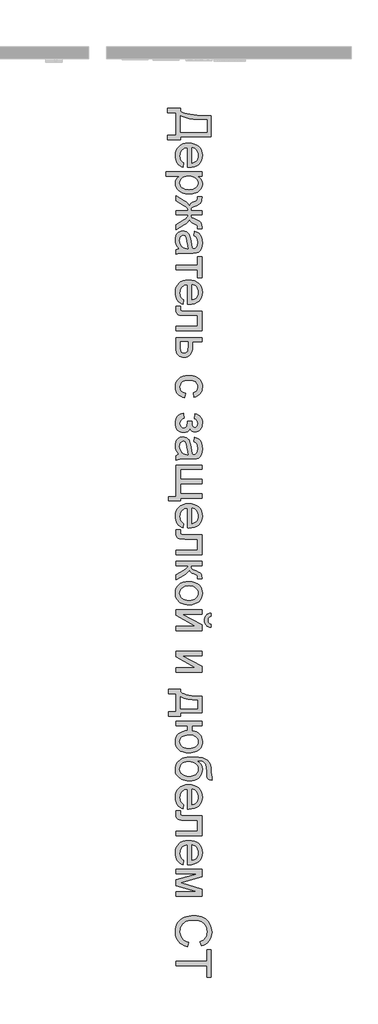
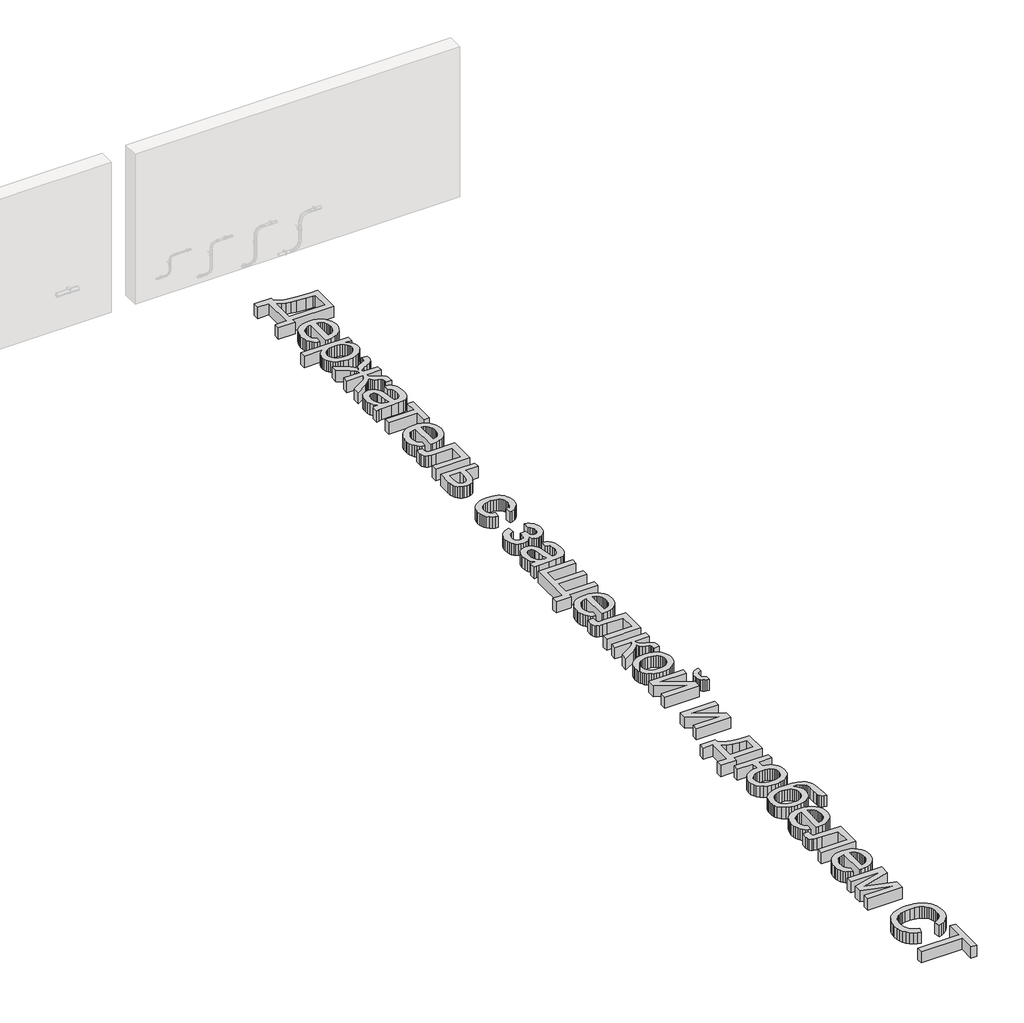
# One storey, part 23 of 33: 1 proxy.
"""IFC4 building model written with IfcOpenShell, lengths in millimetres."""

from ifc_helpers import new_model, si_unit, origin, origin_with_axes, place, context, project, spatial, polyline, outline, extrude, element, save

model = new_model("IFC4")

# Units and contexts
model_context = context("Model", 3, world=origin())
ifc_project = project(units=[si_unit("LENGTHUNIT", "METRE", prefix="MILLI")], contexts=[model_context])

# Site, building, storey
site = spatial("IfcSite", under=ifc_project)
building = spatial("IfcBuilding", under=site)
storey = spatial("IfcBuildingStorey", under=building, Name="Уровень 1", Elevation=0.0)

# Proxy
placement = place(None, origin())
element("IfcBuildingElementProxy", 1, Name="Надпись на модели 1", ObjectType="Надпись на модели 1", at=placement, inside=storey, context=model_context, shape_type="SweptSolid", body=[
    extrude(outline(polyline([(55582.7836806, 3450.1864808), (55582.7836806, 3099.4172501), (55065.8606037, 3099.4172501), (55065.8606037, 3044.0326347), (54853.5529114, 3044.0326347), (54853.5529114, 3117.8787885), (54992.0144499, 3117.8787885), (54992.0144499, 3496.340327), (54853.5529114, 3496.340327), (54853.5529114, 3570.1864808), (55065.8606037, 3570.1864808), (55065.8606037, 3524.0326347), (55095.9484943, 3506.7249424), (55132.8467816, 3491.7249424), (55176.5554655, 3479.0326347), (55227.074546, 3468.6480193), (55348.543897, 3454.8018655), (55497.2548345, 3450.1864808), (55582.7836806, 3450.1864808)]), holes=[polyline([(55508.9375268, 3173.2634039), (55508.9375268, 3376.340327), (55479.2259883, 3376.340327), (55391.6418537, 3380.090327), (55276.8702191, 3391.340327), (55215.5450989, 3400.6432116), (55159.9351229, 3413.5518655), (55110.0402912, 3430.0662885), (55065.8606037, 3450.1864808), (55065.8606037, 3173.2634039), (55508.9375268, 3173.2634039)])]), origin_with_axes(), (0.0, 0.0, 1.0), 150.0),
    extrude(outline(polyline([(55121.2452191, 2657.2057116), (55112.0144499, 2584.8018655), (55083.0150508, 2595.9031275), (55057.4591614, 2610.8896058), (55035.3467816, 2629.7613005), (55016.6779114, 2652.5182116), (55001.8491854, 2678.925964), (54991.2572383, 2708.7501828), (54984.9020701, 2741.9908679), (54982.7836806, 2778.6480193), (54986.4390292, 2824.4683318), (54997.4050749, 2865.2946539), (55015.6818176, 2901.1269856), (55041.2692576, 2931.965327), (55073.4552551, 2956.7640049), (55111.527671, 2974.4773462), (55155.4865051, 2985.105351), (55205.3317576, 2988.6480193), (55256.8672143, 2985.0692933), (55302.2908922, 2974.3331155), (55341.6027912, 2956.4394856), (55374.8029114, 2931.3884039), (55401.1791133, 2900.6311924), (55420.0192576, 2865.6191731), (55431.3233441, 2826.3523462), (55435.0913729, 2782.8307116), (55431.3323585, 2740.7108198), (55420.0553152, 2702.6203751), (55401.2602431, 2668.5593775), (55374.9471422, 2638.527827), (55341.8191374, 2614.0131034), (55302.5793537, 2596.5025866), (55257.2277912, 2585.9962765), (55205.7644499, 2582.4941731), (55185.8606037, 2582.9268655), (55185.8606037, 2914.8018655), (55156.3924547, 2910.5245217), (55130.5841614, 2902.0194135), (55108.4357239, 2889.2865409), (55089.9471422, 2872.3259039), (55075.3708201, 2852.0750025), (55064.9591614, 2829.4713366), (55058.7121662, 2804.5149063), (55056.6298345, 2777.2057116), (55060.4880076, 2737.902827), (55072.0625268, 2704.8018655), (55092.074546, 2677.902827), (55121.2452191, 2657.2057116)]), holes=[polyline([(55259.7067576, 2914.8018655), (55259.7067576, 2656.340327), (55298.7211806, 2666.3283078), (55314.0637287, 2674.919053), (55326.6298345, 2685.9076347), (55341.7740652, 2706.0458558), (55352.5913729, 2728.9605193), (55359.0817576, 2754.6516251), (55361.2452191, 2783.1191731), (55359.5189571, 2809.0852188), (55354.340171, 2832.8968174), (55345.7088609, 2854.5539688), (55333.6250268, 2874.0566731), (55318.6475628, 2890.4223582), (55301.3353633, 2902.668452), (55281.6884282, 2910.7949544), (55259.7067576, 2914.8018655)])]), origin_with_axes(), (0.0, 0.0, 1.0), 150.0),
    extrude(outline(polyline([(54825.8606037, 2508.6480193), (55425.8606037, 2508.6480193), (55425.8606037, 2434.8018655), (55353.4567576, 2434.8018655), (55389.1719018, 2410.715327), (55414.6827191, 2383.7441731), (55429.9892095, 2352.3018655), (55435.0913729, 2314.8018655), (55433.3065172, 2289.0476587), (55427.9519499, 2264.8619616), (55419.027671, 2242.2447741), (55406.5336806, 2221.1960962), (55390.7944979, 2202.1756635), (55372.1346422, 2185.6432116), (55350.5541133, 2171.5987405), (55326.0529114, 2160.0422501), (55271.6418537, 2144.5735001), (55212.2548345, 2139.4172501), (55149.0997864, 2145.2405674), (55120.0237648, 2152.519714), (55092.6154114, 2162.7105193), (55067.5913729, 2175.6732597), (55045.668296, 2191.2682116), (55026.8461806, 2209.4953751), (55011.1250268, 2230.3547501), (54998.7256878, 2252.8231996), (54989.8690172, 2275.8775866), (54984.5550148, 2299.5179111), (54982.7836806, 2323.7441731), (54987.5252672, 2357.6924905), (55001.7500268, 2387.9989808), (55023.2223826, 2413.9424905), (55049.7067576, 2434.8018655), (54825.8606037, 2434.8018655), (54825.8606037, 2508.6480193)]), holes=[polyline([(55205.4759883, 2434.8018655), (55169.887046, 2432.8051707), (55139.2740652, 2426.8150866), (55113.637046, 2416.831613), (55092.9759883, 2402.8547501), (55077.074546, 2386.0293294), (55065.7163729, 2367.5001828), (55058.9014691, 2347.2673102), (55056.6298345, 2325.3307116), (55058.9825989, 2303.0786082), (55066.0408922, 2282.4761443), (55077.8047143, 2263.5233198), (55094.2740652, 2246.2201347), (55115.6833201, 2231.801565), (55142.2668537, 2221.5025866), (55174.0246662, 2215.3231996), (55210.9567576, 2213.2634039), (55246.2392095, 2215.2736203), (55276.7981037, 2221.3042693), (55302.6334402, 2231.355351), (55323.7452191, 2245.4268655), (55340.1514691, 2262.292851), (55351.8702191, 2280.7273462), (55358.9014691, 2300.730351), (55361.2452191, 2322.3018655), (55358.7527311, 2343.8057717), (55351.2752672, 2364.0386443), (55338.8128273, 2383.0004832), (55321.3654114, 2400.6912885), (55299.1673946, 2415.6146659), (55272.4531518, 2426.2742212), (55241.222683, 2432.6699544), (55205.4759883, 2434.8018655)])]), origin_with_axes(), (0.0, 0.0, 1.0), 150.0),
    extrude(outline(polyline([(55425.8606037, 1788.6480193), (55241.2452191, 1788.6480193), (55245.0493056, 1762.5963366), (55256.4615652, 1745.5951347), (55283.8113249, 1729.1708558), (55335.4279114, 1704.8499424), (55384.6466614, 1679.4292693), (55400.7374066, 1667.5572741), (55411.1490652, 1656.2441731), (55422.1827191, 1628.0831155), (55425.8606037, 1587.1576347), (55425.8606037, 1557.8787885), (55351.5817576, 1557.8787885), (55352.0144499, 1578.215327), (55350.1033922, 1602.590327), (55344.3702191, 1616.2922501), (55328.3606037, 1627.2177308), (55296.4856037, 1642.6864808), (55264.3942576, 1658.6420097), (55243.9856037, 1673.3355193), (55230.0312768, 1691.3102789), (55217.3029114, 1717.1095578), (55206.9092816, 1692.8156876), (55188.5649306, 1668.8283078), (55162.2698585, 1645.1474183), (55128.0240652, 1621.7730193), (54992.0144499, 1539.4172501), (54992.0144499, 1624.0807116), (55126.1490652, 1705.1384039), (55161.3594018, 1727.2958558), (55181.8942576, 1746.4605193), (55191.7920941, 1765.8415289), (55195.0913729, 1788.6480193), (54992.0144499, 1788.6480193), (54992.0144499, 1862.4941731), (55195.0913729, 1862.4941731), (55191.8642095, 1885.1203751), (55182.1827191, 1904.5374424), (55161.7920941, 1923.8463366), (55126.4375268, 1946.1480193), (54992.0144499, 2027.2057116), (54992.0144499, 2111.7249424), (55128.0240652, 2029.6576347), (55162.2698585, 2006.0849183), (55188.5649306, 1982.2417693), (55206.9092816, 1958.1281876), (55217.3029114, 1933.7441731), (55231.4375268, 1961.9412885), (55246.7259883, 1980.1864808), (55273.5889691, 1996.7730193), (55322.4471422, 2019.9941731), (55338.7091614, 2029.4052308), (55347.3990652, 2039.465327), (55351.1851229, 2052.7706155), (55352.4471422, 2071.340327), (55352.0144499, 2093.2634039), (55425.8606037, 2093.2634039), (55425.8606037, 2082.1576347), (55424.7067576, 2042.9629231), (55421.2452191, 2017.3980193), (55414.0336806, 1999.621577), (55401.6298345, 1983.7922501), (55377.5793537, 1966.9533078), (55335.4279114, 1946.1480193), (55284.4423345, 1922.0795097), (55256.9663729, 1905.8355193), (55245.1755076, 1888.8343174), (55241.2452191, 1862.4941731), (55425.8606037, 1862.4941731), (55425.8606037, 1788.6480193)])), origin_with_axes(), (0.0, 0.0, 1.0), 150.0),
    extrude(outline(polyline([(55047.3990652, 1225.5710962), (55017.1466614, 1260.8535481), (54997.3509883, 1297.1816731), (54986.4255076, 1335.3847981), (54982.7836806, 1376.2922501), (54984.9741854, 1409.1723582), (54991.5456999, 1438.0049905), (55002.4982239, 1462.7901467), (55017.8317576, 1483.527827), (55036.5727431, 1499.9025265), (55057.7476229, 1511.5987405), (55081.356397, 1518.6164688), (55107.3990652, 1520.9557116), (55138.012046, 1517.4220578), (55165.8125268, 1506.8210962), (55189.6106037, 1490.4689328), (55208.2163729, 1469.6816731), (55222.2788729, 1445.2525866), (55232.4471422, 1417.9749424), (55243.5529114, 1354.0807116), (55255.2356037, 1278.5759039), (55268.9375268, 1226.0037885), (55285.3798345, 1225.5710962), (55318.3365652, 1230.6552308), (55330.5420941, 1237.0103991), (55339.8990652, 1245.9076347), (55349.2380076, 1261.2862405), (55355.9086806, 1280.0182116), (55361.2452191, 1327.5422501), (55357.6935364, 1371.5326347), (55347.0384883, 1402.2537885), (55327.3329595, 1423.2033078), (55296.6298345, 1437.8787885), (55305.8606037, 1511.7249424), (55346.2452191, 1498.9064328), (55377.9759883, 1479.777827), (55402.2428152, 1452.5542693), (55420.2356037, 1415.4509039), (55431.3774306, 1370.0722981), (55435.0913729, 1318.0230193), (55431.8101229, 1268.1011443), (55421.9663729, 1228.527827), (55407.1646902, 1198.6900866), (55389.0096422, 1177.9749424), (55366.5637287, 1164.2369616), (55338.8894499, 1155.3307116), (55274.2740652, 1151.7249424), (55182.3990652, 1151.7249424), (55054.105796, 1147.9749424), (55022.3930556, 1142.4220578), (54992.0144499, 1133.2634039), (54992.0144499, 1207.1095578), (55017.6875268, 1218.9364808), (55047.3990652, 1225.5710962)]), holes=[polyline([(55195.0913729, 1225.5710962), (55182.7956999, 1275.1864808), (55172.4471422, 1344.7057116), (55160.4759883, 1408.2393655), (55152.2908922, 1424.7718174), (55141.0048345, 1437.0134039), (55127.4831999, 1444.5855193), (55112.5913729, 1447.1095578), (55090.6322383, 1441.6107597), (55072.6394499, 1425.1143655), (55060.6322383, 1397.980952), (55056.6298345, 1360.5710962), (55061.0469018, 1320.9076347), (55074.2981037, 1285.8595578), (55093.8233441, 1257.4460962), (55117.0625268, 1237.6864808), (55141.0048345, 1228.9244616), (55174.1779114, 1226.0037885), (55195.0913729, 1225.5710962)])]), origin_with_axes(), (0.0, 0.0, 1.0), 150.0),
    extrude(outline(polyline([(55425.8606037, 1087.1095578), (55425.8606037, 736.340327), (55352.0144499, 736.340327), (55352.0144499, 874.8018655), (54992.0144499, 874.8018655), (54992.0144499, 948.6480193), (55352.0144499, 948.6480193), (55352.0144499, 1087.1095578), (55425.8606037, 1087.1095578)])), origin_with_axes(), (0.0, 0.0, 1.0), 150.0),
    extrude(outline(polyline([(55121.2452191, 367.9749424), (55112.0144499, 295.5710962), (55083.0150508, 306.6723582), (55057.4591614, 321.6588366), (55035.3467816, 340.5305313), (55016.6779114, 363.2874424), (55001.8491854, 389.6951948), (54991.2572383, 419.5194135), (54984.9020701, 452.7600986), (54982.7836806, 489.4172501), (54986.4390292, 535.2375626), (54997.4050749, 576.0638847), (55015.6818176, 611.8962164), (55041.2692576, 642.7345578), (55073.4552551, 667.5332356), (55111.527671, 685.246577), (55155.4865051, 695.8745818), (55205.3317576, 699.4172501), (55256.8672143, 695.8385241), (55302.2908922, 685.1023462), (55341.6027912, 667.2087164), (55374.8029114, 642.1576347), (55401.1791133, 611.4004231), (55420.0192576, 576.3884039), (55431.3233441, 537.121577), (55435.0913729, 493.5999424), (55431.3323585, 451.4800505), (55420.0553152, 413.3896058), (55401.2602431, 379.3286082), (55374.9471422, 349.2970578), (55341.8191374, 324.7823342), (55302.5793537, 307.2718174), (55257.2277912, 296.7655073), (55205.7644499, 293.2634039), (55185.8606037, 293.6960962), (55185.8606037, 625.5710962), (55156.3924547, 621.2937525), (55130.5841614, 612.7886443), (55108.4357239, 600.0557717), (55089.9471422, 583.0951347), (55075.3708201, 562.8442332), (55064.9591614, 540.2405674), (55058.7121662, 515.2841371), (55056.6298345, 487.9749424), (55060.4880076, 448.6720578), (55072.0625268, 415.5710962), (55092.074546, 388.6720578), (55121.2452191, 367.9749424)]), holes=[polyline([(55259.7067576, 625.5710962), (55259.7067576, 367.1095578), (55298.7211806, 377.0975385), (55314.0637287, 385.6882837), (55326.6298345, 396.6768655), (55341.7740652, 416.8150866), (55352.5913729, 439.7297501), (55359.0817576, 465.4208558), (55361.2452191, 493.8884039), (55359.5189571, 519.8544496), (55354.340171, 543.6660481), (55345.7088609, 565.3231996), (55333.6250268, 584.8259039), (55318.6475628, 601.191589), (55301.3353633, 613.4376828), (55281.6884282, 621.5641852), (55259.7067576, 625.5710962)])]), origin_with_axes(), (0.0, 0.0, 1.0), 150.0),
    extrude(outline(polyline([(55425.8606037, 182.4941731), (55425.8606037, -149.8135192), (54992.4471422, -149.8135192), (54992.4471422, -75.9673653), (55352.0144499, -75.9673653), (55352.0144499, 108.6480193), (55145.043296, 108.6480193), (55084.9711806, 109.8920097), (55049.5625268, 113.6239808), (55027.9459402, 122.9448943), (55009.2500268, 140.9557116), (54996.3233441, 168.2874424), (54992.0144499, 205.5710962), (54995.7644499, 265.5710962), (55065.8606037, 265.5710962), (55065.8606037, 232.5422501), (55070.4038729, 199.152827), (55076.2812768, 190.8054712), (55084.8269499, 185.8114808), (55149.2259883, 182.4941731), (55425.8606037, 182.4941731)])), origin_with_axes(), (0.0, 0.0, 1.0), 150.0),
    extrude(outline(polyline([(55425.8606037, -260.5827499), (55425.8606037, -334.4289038), (55268.9375268, -334.4289038), (55268.9375268, -419.5250576), (55266.6253273, -458.8099134), (55259.6887287, -493.2990961), (55248.1277311, -522.9926057), (55231.9423345, -547.8904422), (55211.691433, -567.5779422), (55187.933921, -581.6404422), (55160.6697984, -590.0779422), (55129.8990652, -592.8904422), (55102.4456398, -590.4971129), (55077.0565172, -583.3171249), (55053.7316975, -571.3504783), (55032.4711806, -554.597173), (55014.7713609, -532.5794446), (55002.1286326, -504.8195288), (54994.5429955, -471.3174254), (54992.0144499, -432.0731345), (54992.0144499, -260.5827499), (55425.8606037, -260.5827499)]), holes=[polyline([(55065.8606037, -334.4289038), (55065.8606037, -403.3712115), (55069.7368056, -456.862798), (55074.582058, -476.8883389), (55081.3654114, -492.4337115), (55090.2040532, -504.0758389), (55101.215171, -512.3916442), (55114.3987648, -517.3811273), (55129.7548345, -519.0442884), (55153.8774306, -514.1224134), (55175.1875268, -499.3567884), (55183.8954595, -486.5247571), (55190.1154114, -467.7161634), (55195.0913729, -412.1692884), (55195.0913729, -334.4289038), (55065.8606037, -334.4289038)])]), origin_with_axes(), (0.0, 0.0, 1.0), 150.0),
    extrude(outline(polyline([(55148.9375268, -1192.8904422), (55139.7067576, -1266.7365961), (55104.8615051, -1258.7047451), (55074.027671, -1246.1476538), (55047.2052551, -1229.065322), (55024.3942576, -1207.4577499), (55006.1896301, -1182.2353942), (54993.1863249, -1154.3087115), (54985.3843417, -1123.6777019), (54982.7836806, -1090.3423653), (54986.4119859, -1048.9255985), (54997.2969018, -1011.7906826), (55015.4384282, -978.9376177), (55040.8365652, -950.3664038), (55073.0135484, -927.2399014), (55111.4916133, -910.7209711), (55156.27076, -900.8096129), (55207.3509883, -897.5058269), (55273.0661326, -903.1488557), (55302.6379475, -910.2026418), (55330.0192576, -920.0779422), (55354.660183, -932.8423653), (55376.0108441, -948.5635192), (55394.0712407, -967.2414038), (55408.8413729, -988.8760192), (55420.3257479, -1012.4893004), (55428.5288729, -1037.1031826), (55433.4507479, -1062.7176658), (55435.0913729, -1089.3327499), (55432.8377672, -1122.0956706), (55426.0769499, -1151.7305865), (55414.808921, -1178.2374975), (55399.0336806, -1201.6164038), (55379.1118056, -1221.4706706), (55355.4038729, -1237.4036634), (55327.9098826, -1249.4153821), (55296.6298345, -1257.5058269), (55287.3990652, -1183.659673), (55319.6166133, -1170.2642403), (55342.7115652, -1149.4048653), (55356.6118056, -1122.2353942), (55361.2452191, -1089.909673), (55358.9645701, -1064.8180264), (55352.1226229, -1042.1873172), (55340.7193777, -1022.0175456), (55324.7548345, -1004.3087115), (55303.8594018, -989.8901418), (55277.6634883, -979.5911634), (55246.1670941, -973.4117764), (55209.3702191, -971.3519807), (55172.0189571, -973.3667043), (55140.1574787, -979.4108749), (55113.785784, -989.4844927), (55092.9038729, -1003.5875576), (55077.0339811, -1020.9448293), (55065.6983441, -1040.7810672), (55058.8969619, -1063.0962716), (55056.6298345, -1087.8904422), (55062.2908922, -1126.1296249), (55069.3672143, -1142.6665841), (55079.2740652, -1157.4817884), (55092.1196181, -1170.1605745), (55108.012046, -1180.2882788), (55126.9513489, -1187.8649014), (55148.9375268, -1192.8904422)])), origin_with_axes(), (0.0, 0.0, 1.0), 150.0),
    extrude(outline(polyline([(55185.8606037, -1663.659673), (55259.7067576, -1663.659673), (55262.5913729, -1721.9289038), (55267.7295941, -1737.0731345), (55277.9519499, -1751.3519807), (55292.3569979, -1761.7365961), (55310.043296, -1765.1981345), (55331.0469018, -1760.5647211), (55347.3269499, -1746.6644807), (55357.7656518, -1725.4445288), (55361.2452191, -1698.8519807), (55357.7836806, -1671.9709711), (55347.3990652, -1649.4529422), (55330.0913729, -1631.2978942), (55305.8606037, -1617.5058269), (55315.0913729, -1534.4289038), (55343.2163729, -1544.0112355), (55367.5913729, -1556.4601538), (55388.2163729, -1571.7756586), (55405.0913729, -1589.9577499), (55418.2163729, -1611.0064278), (55427.5913729, -1634.9216922), (55433.2163729, -1661.7035432), (55435.0913729, -1691.3519807), (55432.8062167, -1724.0923653), (55425.9507479, -1753.0827499), (55414.5249667, -1778.3231345), (55398.5288729, -1799.8135192), (55379.3597023, -1816.9769807), (55358.4146902, -1829.2365961), (55335.6938369, -1836.5923653), (55311.1971422, -1839.0442884), (55286.9663729, -1835.5557067), (55265.3317576, -1825.0899615), (55246.293296, -1807.6470528), (55229.8509883, -1783.2269807), (55209.3341614, -1811.7305865), (55183.8413729, -1832.0490961), (55153.3005076, -1844.2185672), (55117.6394499, -1848.2750576), (55089.0502071, -1845.7014398), (55063.2824787, -1837.9805865), (55040.3362648, -1825.1124975), (55020.2115652, -1807.097173), (55003.8368657, -1784.4574495), (54992.1406518, -1757.7161634), (54985.1229234, -1726.8733148), (54982.7836806, -1691.9289038), (54984.9471422, -1657.8679062), (54991.4375268, -1627.5839519), (55002.2548345, -1601.0770408), (55017.3990652, -1578.347173), (55036.8702191, -1559.3943485), (55060.668296, -1544.2185672), (55088.793296, -1532.8198293), (55121.2452191, -1525.1981345), (55130.4759883, -1608.2750576), (55099.2500268, -1620.7149615), (55075.9567576, -1641.5923653), (55061.4615652, -1668.4914038), (55056.6298345, -1698.9962115), (55061.2632479, -1728.7077499), (55075.1634883, -1752.9385192), (55096.2752672, -1769.0563076), (55122.543296, -1774.4289038), (55143.3485845, -1771.0935672), (55161.3413729, -1761.0875576), (55174.8269499, -1747.3135192), (55182.1106037, -1732.6740961), (55186.293296, -1678.0827499), (55185.8606037, -1663.659673)])), origin_with_axes(), (0.0, 0.0, 1.0), 150.0),
    extrude(outline(polyline([(55047.3990652, -2217.5058269), (55017.1466614, -2182.2233749), (54997.3509883, -2145.8952499), (54986.4255076, -2107.6921249), (54982.7836806, -2066.784673), (54984.9741854, -2033.9045648), (54991.5456999, -2005.0719326), (55002.4982239, -1980.2867764), (55017.8317576, -1959.5490961), (55036.5727431, -1943.1743966), (55057.7476229, -1931.4781826), (55081.356397, -1924.4604543), (55107.3990652, -1922.1212115), (55138.012046, -1925.6548653), (55165.8125268, -1936.2558269), (55189.6106037, -1952.6079903), (55208.2163729, -1973.3952499), (55222.2788729, -1997.8243365), (55232.4471422, -2025.1019807), (55243.5529114, -2088.9962115), (55255.2356037, -2164.5010192), (55268.9375268, -2217.0731345), (55285.3798345, -2217.5058269), (55318.3365652, -2212.4216922), (55330.5420941, -2206.066524), (55339.8990652, -2197.1692884), (55349.2380076, -2181.7906826), (55355.9086806, -2163.0587115), (55361.2452191, -2115.534673), (55357.6935364, -2071.5442884), (55347.0384883, -2040.8231345), (55327.3329595, -2019.8736153), (55296.6298345, -2005.1981345), (55305.8606037, -1931.3519807), (55346.2452191, -1944.1704903), (55377.9759883, -1963.2990961), (55402.2428152, -1990.5226538), (55420.2356037, -2027.6260192), (55431.3774306, -2073.0046249), (55435.0913729, -2125.0539038), (55431.8101229, -2174.9757788), (55421.9663729, -2214.5490961), (55407.1646902, -2244.3868365), (55389.0096422, -2265.1019807), (55366.5637287, -2278.8399615), (55338.8894499, -2287.7462115), (55274.2740652, -2291.3519807), (55182.3990652, -2291.3519807), (55054.105796, -2295.1019807), (55022.3930556, -2300.6548653), (54992.0144499, -2309.8135192), (54992.0144499, -2235.9673653), (55017.6875268, -2224.1404422), (55047.3990652, -2217.5058269)]), holes=[polyline([(55195.0913729, -2217.5058269), (55182.7956999, -2167.8904422), (55172.4471422, -2098.3712115), (55160.4759883, -2034.8375576), (55152.2908922, -2018.3051057), (55141.0048345, -2006.0635192), (55127.4831999, -1998.4914038), (55112.5913729, -1995.9673653), (55090.6322383, -2001.4661634), (55072.6394499, -2017.9625576), (55060.6322383, -2045.0959711), (55056.6298345, -2082.5058269), (55061.0469018, -2122.1692884), (55074.2981037, -2157.2173653), (55093.8233441, -2185.6308269), (55117.0625268, -2205.3904422), (55141.0048345, -2214.1524615), (55174.1779114, -2217.0731345), (55195.0913729, -2217.5058269)])]), origin_with_axes(), (0.0, 0.0, 1.0), 150.0),
    extrude(outline(polyline([(55425.8606037, -2392.8904422), (55425.8606037, -2466.7365961), (55065.8606037, -2466.7365961), (55065.8606037, -2632.8904422), (55425.8606037, -2632.8904422), (55425.8606037, -2706.7365961), (55065.8606037, -2706.7365961), (55065.8606037, -2872.8904422), (55425.8606037, -2872.8904422), (55425.8606037, -2946.7365961), (55065.8606037, -2946.7365961), (55065.8606037, -2992.8904422), (54872.0144499, -2992.8904422), (54872.0144499, -2919.0442884), (54992.0144499, -2919.0442884), (54992.0144499, -2392.8904422), (55425.8606037, -2392.8904422)])), origin_with_axes(), (0.0, 0.0, 1.0), 150.0),
    extrude(outline(polyline([(55121.2452191, -3370.4865961), (55112.0144499, -3442.8904422), (55083.0150508, -3431.7891802), (55057.4591614, -3416.8027019), (55035.3467816, -3397.9310071), (55016.6779114, -3375.1740961), (55001.8491854, -3348.7663437), (54991.2572383, -3318.9421249), (54984.9020701, -3285.7014398), (54982.7836806, -3249.0442884), (54986.4390292, -3203.2239759), (54997.4050749, -3162.3976538), (55015.6818176, -3126.565322), (55041.2692576, -3095.7269807), (55073.4552551, -3070.9283028), (55111.527671, -3053.2149615), (55155.4865051, -3042.5869567), (55205.3317576, -3039.0442884), (55256.8672143, -3042.6230144), (55302.2908922, -3053.3591922), (55341.6027912, -3071.252822), (55374.8029114, -3096.3039038), (55401.1791133, -3127.0611153), (55420.0192576, -3162.0731345), (55431.3233441, -3201.3399615), (55435.0913729, -3244.8615961), (55431.3323585, -3286.9814879), (55420.0553152, -3325.0719326), (55401.2602431, -3359.1329302), (55374.9471422, -3389.1644807), (55341.8191374, -3413.6792043), (55302.5793537, -3431.1897211), (55257.2277912, -3441.6960312), (55205.7644499, -3445.1981345), (55185.8606037, -3444.7654422), (55185.8606037, -3112.8904422), (55156.3924547, -3117.167786), (55130.5841614, -3125.6728942), (55108.4357239, -3138.4057668), (55089.9471422, -3155.3664038), (55075.3708201, -3175.6173052), (55064.9591614, -3198.2209711), (55058.7121662, -3223.1774014), (55056.6298345, -3250.4865961), (55060.4880076, -3289.7894807), (55072.0625268, -3322.8904422), (55092.074546, -3349.7894807), (55121.2452191, -3370.4865961)]), holes=[polyline([(55259.7067576, -3112.8904422), (55259.7067576, -3371.3519807), (55298.7211806, -3361.3639999), (55314.0637287, -3352.7732547), (55326.6298345, -3341.784673), (55341.7740652, -3321.6464519), (55352.5913729, -3298.7317884), (55359.0817576, -3273.0406826), (55361.2452191, -3244.5731345), (55359.5189571, -3218.6070889), (55354.340171, -3194.7954903), (55345.7088609, -3173.1383389), (55333.6250268, -3153.6356345), (55318.6475628, -3137.2699495), (55301.3353633, -3125.0238557), (55281.6884282, -3116.8973533), (55259.7067576, -3112.8904422)])]), origin_with_axes(), (0.0, 0.0, 1.0), 150.0),
    extrude(outline(polyline([(55425.8606037, -3555.9673653), (55425.8606037, -3888.2750576), (54992.4471422, -3888.2750576), (54992.4471422, -3814.4289038), (55352.0144499, -3814.4289038), (55352.0144499, -3629.8135192), (55145.043296, -3629.8135192), (55084.9711806, -3628.5695288), (55049.5625268, -3624.8375576), (55027.9459402, -3615.5166442), (55009.2500268, -3597.5058269), (54996.3233441, -3570.1740961), (54992.0144499, -3532.8904422), (54995.7644499, -3472.8904422), (55065.8606037, -3472.8904422), (55065.8606037, -3505.9192884), (55070.4038729, -3539.3087115), (55076.2812768, -3547.6560672), (55084.8269499, -3552.6500576), (55149.2259883, -3555.9673653), (55425.8606037, -3555.9673653)])), origin_with_axes(), (0.0, 0.0, 1.0), 150.0),
    extrude(outline(polyline([(55425.8606037, -3999.0442884), (55425.8606037, -4072.8904422), (55241.2452191, -4072.8904422), (55244.5625268, -4102.9264999), (55254.5144499, -4122.3615961), (55280.4759883, -4139.5611153), (55331.8221422, -4162.8904422), (55373.8113249, -4181.6945288), (55398.5288729, -4196.5683269), (55411.996421, -4210.4505384), (55420.2356037, -4226.2798653), (55424.4543537, -4248.1849134), (55425.8606037, -4280.2942884), (55425.8606037, -4294.4289038), (55351.5817576, -4294.4289038), (55352.0144499, -4274.5250576), (55350.0673345, -4251.4481345), (55344.2259883, -4238.4673653), (55327.9639691, -4227.9385192), (55295.6202191, -4213.0827499), (55263.2223826, -4197.487798), (55243.0481037, -4183.2990961), (55229.5805556, -4166.1176057), (55217.3029114, -4141.5442884), (55206.9092816, -4164.9457307), (55188.5649306, -4188.1308269), (55162.2698585, -4211.0995769), (55128.0240652, -4233.8519807), (54992.0144499, -4312.8904422), (54992.0144499, -4228.9481345), (55125.1394499, -4151.4962115), (55160.5661326, -4130.5827499), (55181.4615652, -4112.5539038), (55191.683921, -4094.3447692), (55195.0913729, -4072.8904422), (54992.0144499, -4072.8904422), (54992.0144499, -3999.0442884), (55425.8606037, -3999.0442884)])), origin_with_axes(), (0.0, 0.0, 1.0), 150.0),
    extrude(outline(polyline([(55208.9375268, -4340.5827499), (55265.1244258, -4344.5761394), (55313.5408922, -4356.5563076), (55354.1869258, -4376.5232547), (55387.0625268, -4404.4769807), (55408.075147, -4432.6200095), (55423.0841614, -4463.6837115), (55432.0895701, -4497.6680865), (55435.0913729, -4534.5731345), (55431.4360244, -4575.3138196), (55420.4699787, -4612.1512595), (55402.1932359, -4645.0854543), (55376.605796, -4674.1164038), (55344.5730436, -4697.8108148), (55306.9603633, -4714.7353942), (55263.7677551, -4724.8901418), (55214.9952191, -4728.2750576), (55175.4669739, -4726.7786634), (55140.3918537, -4722.2894807), (55109.7698585, -4714.8075095), (55083.6009883, -4704.3327499), (55060.9973225, -4690.995911), (55041.0709402, -4674.9277019), (55023.8218417, -4656.1281225), (55009.2500268, -4634.597173), (54997.6710003, -4611.1731946), (54989.4002672, -4586.6945288), (54984.4378273, -4561.1611754), (54982.7836806, -4534.5731345), (54986.4255076, -4493.2374975), (54997.3509883, -4456.0575095), (55015.5601229, -4423.0331706), (55041.0529114, -4394.1644807), (55073.3966614, -4370.7224735), (55112.1586806, -4353.9781826), (55157.3389691, -4343.9316081), (55208.9375268, -4340.5827499)]), holes=[polyline([(55209.0817576, -4414.4289038), (55173.2629475, -4416.565322), (55142.2488249, -4422.9745769), (55116.0393898, -4433.6566682), (55094.6346422, -4448.6115961), (55078.0075388, -4466.8027019), (55066.1310364, -4487.1933269), (55059.005135, -4509.7834711), (55056.6298345, -4534.5731345), (55059.0186566, -4559.2365961), (55066.1851229, -4581.7365961), (55078.1292335, -4602.0731345), (55094.8509883, -4620.2462115), (55116.4675749, -4635.2011394), (55143.0961806, -4645.8832307), (55174.7368056, -4652.2924855), (55211.3894499, -4654.4289038), (55246.0724426, -4652.2789639), (55276.2752672, -4645.8291442), (55301.9979234, -4635.0794446), (55323.2404114, -4620.0298653), (55339.8675148, -4601.7891802), (55351.7440172, -4581.4661634), (55358.8699186, -4559.0608148), (55361.2452191, -4534.5731345), (55358.878933, -4509.7834711), (55351.7800749, -4487.1933269), (55339.9486446, -4466.8027019), (55323.3846422, -4448.6115961), (55302.0429955, -4433.6566682), (55275.8786326, -4422.9745769), (55244.8915532, -4416.565322), (55209.0817576, -4414.4289038)])]), origin_with_axes(), (0.0, 0.0, 1.0), 150.0),
    extrude(outline(polyline([(55582.7836806, -5051.3519807), (55582.7836806, -5106.7365961), (55557.5838609, -5102.2789639), (55535.4940172, -5094.8195288), (55516.5141494, -5084.3582908), (55500.6442576, -5070.8952499), (55488.1187167, -5054.7008389), (55479.1719018, -5036.0454903), (55473.8038128, -5014.9292043), (55472.0144499, -4991.3519807), (55473.7902912, -4965.7420047), (55479.1178152, -4942.8543845), (55487.997022, -4922.6891201), (55500.4279114, -4905.2462115), (55516.2301951, -4890.7780624), (55535.2235845, -4879.5370769), (55557.4080797, -4871.5232547), (55582.7836806, -4866.7365961), (55582.7836806, -4922.1212115), (55558.4627672, -4929.909673), (55541.1731037, -4942.8904422), (55530.8425749, -4961.1356345), (55527.3990652, -4984.7173653), (55530.7344018, -5011.3279422), (55540.7404114, -5030.5827499), (55557.9219018, -5043.5635192), (55582.7836806, -5051.3519807)])), origin_with_axes(), (0.0, 0.0, 1.0), 150.0),
    extrude(outline(polyline([(55425.8606037, -4811.3519807), (55425.8606037, -4885.1981345), (55094.9952191, -4885.1981345), (55425.8606037, -5066.6404422), (55425.8606037, -5162.1212115), (54992.0144499, -5162.1212115), (54992.0144499, -5088.2750576), (55320.8606037, -5088.2750576), (54992.0144499, -4907.9865961), (54992.0144499, -4811.3519807), (55425.8606037, -4811.3519807)])), origin_with_axes(), (0.0, 0.0, 1.0), 150.0),
    extrude(outline(polyline([(55425.8606037, -5503.659673), (55425.8606037, -5577.5058269), (55094.9952191, -5577.5058269), (55425.8606037, -5758.9481345), (55425.8606037, -5854.4289038), (54992.0144499, -5854.4289038), (54992.0144499, -5780.5827499), (55320.8606037, -5780.5827499), (54992.0144499, -5600.2942884), (54992.0144499, -5503.659673), (55425.8606037, -5503.659673)])), origin_with_axes(), (0.0, 0.0, 1.0), 150.0),
    extrude(outline(polyline([(55425.8606037, -6260.5827499), (55425.8606037, -6537.5058269), (55065.8606037, -6537.5058269), (55065.8606037, -6592.8904422), (54872.0144499, -6592.8904422), (54872.0144499, -6519.0442884), (54992.0144499, -6519.0442884), (54992.0144499, -6214.4289038), (54872.0144499, -6214.4289038), (54872.0144499, -6140.5827499), (55065.8606037, -6140.5827499), (55065.8606037, -6186.7365961), (55093.7286926, -6204.7699495), (55126.4916133, -6220.2882788), (55164.1493657, -6233.2915841), (55206.7019499, -6243.7798653), (55306.4916133, -6257.2113557), (55425.8606037, -6260.5827499)]), holes=[polyline([(55352.0144499, -6325.1981345), (55261.5997864, -6319.1404422), (55183.7692576, -6307.8904422), (55118.5228633, -6291.4481345), (55065.8606037, -6269.8135192), (55065.8606037, -6463.659673), (55352.0144499, -6463.659673), (55352.0144499, -6325.1981345)])]), origin_with_axes(), (0.0, 0.0, 1.0), 150.0),
    extrude(outline(polyline([(55425.8606037, -6675.9673653), (55425.8606037, -6749.8135192), (55259.7067576, -6749.8135192), (55259.7067576, -6832.8904422), (55299.8750268, -6840.0974735), (55334.9952191, -6852.0551057), (55365.0673345, -6868.7633389), (55390.0913729, -6890.222173), (55409.7788729, -6915.8276418), (55423.8413729, -6944.9757788), (55432.2788729, -6977.6665841), (55435.0913729, -7013.9000576), (55433.4372263, -7044.5716321), (55428.4747864, -7071.8267403), (55420.2040532, -7095.6653821), (55408.6250268, -7116.0875576), (55377.1646902, -7150.2341922), (55335.7163729, -7177.8183269), (55310.4759883, -7188.4508389), (55281.1971422, -7196.0454903), (55247.8798345, -7200.6022812), (55210.5240652, -7202.1212115), (55157.8798345, -7198.979685), (55112.0144499, -7189.5551057), (55072.9279114, -7173.8474735), (55040.6202191, -7151.8567884), (55015.3167335, -7124.4844927), (54997.2428152, -7092.6320288), (54986.3984643, -7056.2993966), (54982.7836806, -7015.4865961), (54986.1731037, -6977.4502379), (54996.3413729, -6943.3892403), (55013.2884883, -6913.3036033), (55037.0144499, -6887.1933269), (55066.6538729, -6865.7074495), (55101.3413729, -6849.4950095), (55141.0769499, -6838.5560071), (55185.8606037, -6832.8904422), (55185.8606037, -6749.8135192), (54992.0144499, -6749.8135192), (54992.0144499, -6675.9673653), (55425.8606037, -6675.9673653)]), holes=[polyline([(55361.2452191, -7018.659673), (55358.856397, -6993.6581706), (55351.6899306, -6971.5863557), (55339.7458201, -6952.4442283), (55323.0240652, -6936.2317884), (55301.9934162, -6923.3276418), (55277.1226229, -6914.1103942), (55248.4116854, -6908.5800456), (55215.8606037, -6906.7365961), (55177.4276109, -6908.5935672), (55144.4844018, -6914.1644807), (55117.0309763, -6923.4493365), (55095.0673345, -6936.4481345), (55078.2509282, -6952.5569086), (55066.2392095, -6971.1716922), (55059.0321782, -6992.2924855), (55056.6298345, -7015.9192884), (55058.8518898, -7039.4694687), (55065.5180556, -7060.7930865), (55076.6283321, -7079.8901418), (55092.1827191, -7096.7606345), (55112.6860244, -7110.5481946), (55138.6430556, -7120.3964519), (55170.0538128, -7126.3054062), (55206.918296, -7128.2750576), (55243.0886686, -7126.5713317), (55274.4363249, -7121.4601538), (55300.9612648, -7112.941524), (55322.6634883, -7101.0154422), (55339.5429955, -7085.6458509), (55351.5997864, -7066.7966922), (55358.8338609, -7044.4679663), (55361.2452191, -7018.659673)])]), origin_with_axes(), (0.0, 0.0, 1.0), 150.0),
    extrude(outline(polyline([(55592.0144499, -7599.0442884), (55592.0144499, -7663.659673), (55556.9122864, -7656.6644807), (55534.3942576, -7644.6212115), (55521.0709402, -7627.9264999), (55513.5529114, -7606.9769807), (55510.0913729, -7572.8303461), (55508.9375268, -7516.5442884), (55504.6827191, -7441.4541442), (55499.3642095, -7414.5505985), (55491.918296, -7394.7414038), (55482.1286326, -7379.6242163), (55469.7788729, -7366.7966922), (55454.8690172, -7356.2588317), (55437.3990652, -7348.0106345), (55394.5264691, -7336.9589519), (55340.9086806, -7332.2173653), (55382.1586806, -7361.9108749), (55411.5817576, -7396.1837115), (55429.2139691, -7435.0719326), (55435.0913729, -7478.6115961), (55431.3548946, -7518.8429663), (55420.1454595, -7555.4505384), (55401.4630676, -7588.4343124), (55375.3077191, -7617.7942884), (55342.7791734, -7641.8988557), (55304.9771902, -7659.1164038), (55261.9017696, -7669.4469326), (55213.5529114, -7672.8904422), (55176.5667335, -7671.1822091), (55143.0601229, -7666.0575095), (55113.0330797, -7657.5163437), (55086.4856037, -7645.5587115), (55042.5132479, -7615.6849134), (55009.8269499, -7580.7269807), (54997.9955196, -7560.2822692), (54989.5444979, -7536.4481345), (54984.473885, -7509.2245769), (54982.7836806, -7478.6115961), (54984.9606638, -7443.198435), (54991.4916133, -7411.9589519), (55002.3765292, -7384.8931466), (55017.6154114, -7362.0010192), (55036.2482239, -7342.4081706), (55057.3149306, -7325.2402019), (55080.8155316, -7310.4971129), (55106.7500268, -7298.1789038), (55138.9360244, -7288.4613557), (55181.1911326, -7281.5202499), (55233.5153513, -7277.3555865), (55295.9086806, -7275.9673653), (55373.6625869, -7279.4694687), (55437.5973826, -7289.9757788), (55487.7130676, -7307.4862956), (55507.5887437, -7318.8681315), (55524.0096422, -7332.0010192), (55549.723284, -7363.7813677), (55568.090171, -7403.0887595), (55579.1103032, -7449.9231946), (55582.7836806, -7504.284673), (55584.4423345, -7586.4962115), (55587.1646902, -7594.5370769), (55592.0144499, -7599.0442884)]), holes=[polyline([(55215.8606037, -7599.0442884), (55246.3609042, -7597.0430865), (55273.9675749, -7591.0394807), (55298.6806157, -7581.0334711), (55320.5000268, -7567.0250576), (55338.3260484, -7549.3748172), (55351.058921, -7528.4433269), (55358.6986446, -7504.2305865), (55361.2452191, -7476.7365961), (55358.5544138, -7448.0436874), (55350.4819979, -7422.8303461), (55337.0279715, -7401.096572), (55318.1923345, -7382.8423653), (55294.8585003, -7368.3922451), (55267.9098826, -7358.0707307), (55237.3464811, -7351.877822), (55203.168296, -7349.8135192), (55169.7022503, -7352.0941682), (55140.4098826, -7358.9361153), (55115.2911926, -7370.3393605), (55094.3461806, -7386.3039038), (55077.8452792, -7405.612798), (55066.058921, -7427.0490961), (55058.9871061, -7450.612798), (55056.6298345, -7476.3039038), (55059.3566975, -7502.346572), (55067.5372864, -7525.8111153), (55081.1716013, -7546.6975336), (55100.2596422, -7565.0058269), (55123.8458801, -7579.8976538), (55150.9747864, -7590.534673), (55181.6463609, -7596.9168845), (55215.8606037, -7599.0442884)])]), origin_with_axes(), (0.0, 0.0, 1.0), 150.0),
    extrude(outline(polyline([(55121.2452191, -8068.9481345), (55112.0144499, -8141.3519807), (55083.0150508, -8130.2507187), (55057.4591614, -8115.2642403), (55035.3467816, -8096.3925456), (55016.6779114, -8073.6356345), (55001.8491854, -8047.2278821), (54991.2572383, -8017.4036634), (54984.9020701, -7984.1629783), (54982.7836806, -7947.5058269), (54986.4390292, -7901.6855144), (54997.4050749, -7860.8591922), (55015.6818176, -7825.0268605), (55041.2692576, -7794.1885192), (55073.4552551, -7769.3898413), (55111.527671, -7751.6764999), (55155.4865051, -7741.0484951), (55205.3317576, -7737.5058269), (55256.8672143, -7741.0845528), (55302.2908922, -7751.8207307), (55341.6027912, -7769.7143605), (55374.8029114, -7794.7654422), (55401.1791133, -7825.5226538), (55420.0192576, -7860.534673), (55431.3233441, -7899.8014999), (55435.0913729, -7943.3231345), (55431.3323585, -7985.4430264), (55420.0553152, -8023.5334711), (55401.2602431, -8057.5944687), (55374.9471422, -8087.6260192), (55341.8191374, -8112.1407427), (55302.5793537, -8129.6512595), (55257.2277912, -8140.1575696), (55205.7644499, -8143.659673), (55185.8606037, -8143.2269807), (55185.8606037, -7811.3519807), (55156.3924547, -7815.6293245), (55130.5841614, -7824.1344326), (55108.4357239, -7836.8673052), (55089.9471422, -7853.8279422), (55075.3708201, -7874.0788437), (55064.9591614, -7896.6825095), (55058.7121662, -7921.6389398), (55056.6298345, -7948.9481345), (55060.4880076, -7988.2510192), (55072.0625268, -8021.3519807), (55092.074546, -8048.2510192), (55121.2452191, -8068.9481345)]), holes=[polyline([(55259.7067576, -7811.3519807), (55259.7067576, -8069.8135192), (55298.7211806, -8059.8255384), (55314.0637287, -8051.2347932), (55326.6298345, -8040.2462115), (55341.7740652, -8020.1079903), (55352.5913729, -7997.1933269), (55359.0817576, -7971.5022211), (55361.2452191, -7943.034673), (55359.5189571, -7917.0686273), (55354.340171, -7893.2570288), (55345.7088609, -7871.5998773), (55333.6250268, -7852.097173), (55318.6475628, -7835.7314879), (55301.3353633, -7823.4853942), (55281.6884282, -7815.3588918), (55259.7067576, -7811.3519807)])]), origin_with_axes(), (0.0, 0.0, 1.0), 150.0),
    extrude(outline(polyline([(55425.8606037, -8254.4289038), (55425.8606037, -8586.7365961), (54992.4471422, -8586.7365961), (54992.4471422, -8512.8904422), (55352.0144499, -8512.8904422), (55352.0144499, -8328.2750576), (55145.043296, -8328.2750576), (55084.9711806, -8327.0310672), (55049.5625268, -8323.2990961), (55027.9459402, -8313.9781826), (55009.2500268, -8295.9673653), (54996.3233441, -8268.6356345), (54992.0144499, -8231.3519807), (54995.7644499, -8171.3519807), (55065.8606037, -8171.3519807), (55065.8606037, -8204.3808269), (55070.4038729, -8237.7702499), (55076.2812768, -8246.1176057), (55084.8269499, -8251.1115961), (55149.2259883, -8254.4289038), (55425.8606037, -8254.4289038)])), origin_with_axes(), (0.0, 0.0, 1.0), 150.0),
    extrude(outline(polyline([(55121.2452191, -9001.2558269), (55112.0144499, -9073.659673), (55083.0150508, -9062.558411), (55057.4591614, -9047.5719326), (55035.3467816, -9028.7002379), (55016.6779114, -9005.9433269), (55001.8491854, -8979.5355745), (54991.2572383, -8949.7113557), (54984.9020701, -8916.4706706), (54982.7836806, -8879.8135192), (54986.4390292, -8833.9932067), (54997.4050749, -8793.1668845), (55015.6818176, -8757.3345528), (55041.2692576, -8726.4962115), (55073.4552551, -8701.6975336), (55111.527671, -8683.9841922), (55155.4865051, -8673.3561874), (55205.3317576, -8669.8135192), (55256.8672143, -8673.3922451), (55302.2908922, -8684.128423), (55341.6027912, -8702.0220528), (55374.8029114, -8727.0731345), (55401.1791133, -8757.8303461), (55420.0192576, -8792.8423653), (55431.3233441, -8832.1091922), (55435.0913729, -8875.6308269), (55431.3323585, -8917.7507187), (55420.0553152, -8955.8411634), (55401.2602431, -8989.902161), (55374.9471422, -9019.9337115), (55341.8191374, -9044.448435), (55302.5793537, -9061.9589519), (55257.2277912, -9072.465262), (55205.7644499, -9075.9673653), (55185.8606037, -9075.534673), (55185.8606037, -8743.659673), (55156.3924547, -8747.9370168), (55130.5841614, -8756.4421249), (55108.4357239, -8769.1749975), (55089.9471422, -8786.1356345), (55075.3708201, -8806.386536), (55064.9591614, -8828.9902019), (55058.7121662, -8853.9466321), (55056.6298345, -8881.2558269), (55060.4880076, -8920.5587115), (55072.0625268, -8953.659673), (55092.074546, -8980.5587115), (55121.2452191, -9001.2558269)]), holes=[polyline([(55259.7067576, -8743.659673), (55259.7067576, -9002.1212115), (55298.7211806, -8992.1332307), (55314.0637287, -8983.5424855), (55326.6298345, -8972.5539038), (55341.7740652, -8952.4156826), (55352.5913729, -8929.5010192), (55359.0817576, -8903.8099134), (55361.2452191, -8875.3423653), (55359.5189571, -8849.3763196), (55354.340171, -8825.5647211), (55345.7088609, -8803.9075696), (55333.6250268, -8784.4048653), (55318.6475628, -8768.0391802), (55301.3353633, -8755.7930865), (55281.6884282, -8747.6665841), (55259.7067576, -8743.659673)])]), origin_with_axes(), (0.0, 0.0, 1.0), 150.0),
    extrude(outline(polyline([(55425.8606037, -9149.8135192), (55425.8606037, -9276.8808269), (55078.5529114, -9374.8135192), (55425.8606037, -9480.3904422), (55425.8606037, -9602.1212115), (54992.0144499, -9602.1212115), (54992.0144499, -9528.2750576), (55341.3413729, -9528.2750576), (54992.0144499, -9422.1212115), (54992.0144499, -9325.1981345), (55358.0721422, -9223.659673), (54992.0144499, -9223.659673), (54992.0144499, -9149.8135192), (55425.8606037, -9149.8135192)])), origin_with_axes(), (0.0, 0.0, 1.0), 150.0),
    extrude(outline(polyline([(55202.0144499, -10368.2750576), (55182.9759883, -10442.1212115), (55137.05201, -10427.5088317), (55096.9243056, -10408.0466922), (55062.5928753, -10383.7347932), (55034.0577191, -10354.5731345), (55011.6253273, -10321.2197692), (54995.6021902, -10284.3327499), (54985.988308, -10243.9120769), (54982.7836806, -10199.9577499), (54985.2085604, -10154.9261995), (54992.4831999, -10114.3027019), (55004.6075989, -10078.0872571), (55021.5817576, -10046.2798653), (55043.153272, -10018.4433269), (55069.0697383, -9994.1404422), (55099.3311566, -9973.3712115), (55133.9375268, -9956.1356345), (55171.3924547, -9942.6004783), (55210.199546, -9932.9325095), (55250.3588008, -9927.1317283), (55291.8702191, -9925.1981345), (55336.4104835, -9927.3841321), (55378.012046, -9933.9421249), (55416.6749066, -9944.8721129), (55452.3990652, -9960.1740961), (55484.5940773, -9979.5055264), (55512.6694979, -10002.5238557), (55536.6253273, -10029.2290841), (55556.4615652, -10059.6212115), (55572.0159523, -10092.6680865), (55583.1262287, -10127.3375576), (55589.7923946, -10163.6296249), (55592.0144499, -10201.5442884), (55589.1388489, -10243.7813677), (55580.512046, -10282.5118365), (55566.1340412, -10317.7356946), (55546.0048345, -10349.4529422), (55520.6562768, -10377.1407427), (55490.6202191, -10400.2762595), (55455.8966614, -10418.8594927), (55416.4856037, -10432.8904422), (55398.8894499, -10359.0442884), (55427.9294138, -10347.4156826), (55452.7416133, -10333.4433269), (55473.3260484, -10317.1272211), (55489.6827191, -10298.4673653), (55502.145159, -10277.3555865), (55511.0469018, -10253.6837115), (55516.3879475, -10227.4517403), (55518.168296, -10198.659673), (55516.1941374, -10165.5316682), (55510.2716614, -10135.2341922), (55500.4008681, -10107.7672451), (55486.5817576, -10083.1308269), (55469.4363249, -10061.635935), (55449.5865652, -10043.5935672), (55427.0324787, -10029.0037235), (55401.7740652, -10017.8664038), (55347.7235845, -10003.7498172), (55292.0144499, -9999.0442884), (55223.793296, -10004.6152019), (55193.1442576, -10011.5788437), (55164.8029114, -10021.3279422), (55139.332659, -10034.0202499), (55117.2969018, -10049.8135192), (55098.6956398, -10068.7077499), (55083.5288729, -10090.7029422), (55071.7605436, -10114.730887), (55063.3545941, -10139.7233749), (55058.3110244, -10165.6804062), (55056.6298345, -10192.6019807), (55058.9194979, -10224.7068485), (55065.7884883, -10254.2426057), (55077.2368056, -10281.2092523), (55093.2644499, -10305.6067884), (55113.7993056, -10326.8582908), (55138.7692576, -10344.3868365), (55168.1743056, -10358.1924254), (55202.0144499, -10368.2750576)])), origin_with_axes(), (0.0, 0.0, 1.0), 150.0),
    extrude(outline(polyline([(54992.0144499, -10691.3519807), (55508.9375268, -10691.3519807), (55508.9375268, -10497.5058269), (55582.7836806, -10497.5058269), (55582.7836806, -10959.0442884), (55508.9375268, -10959.0442884), (55508.9375268, -10765.1981345), (54992.0144499, -10765.1981345), (54992.0144499, -10691.3519807)])), origin_with_axes(), (0.0, 0.0, 1.0), 150.0),
])

save(model, "model.ifc")
